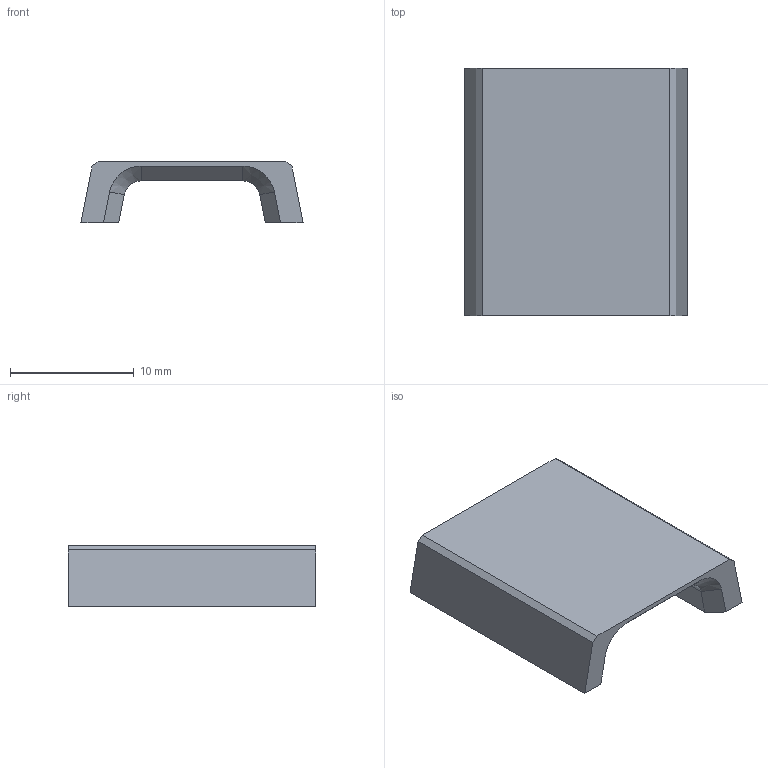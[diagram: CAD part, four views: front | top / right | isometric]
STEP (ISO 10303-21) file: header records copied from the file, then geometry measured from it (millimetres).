
FILE_DESCRIPTION(/* description */ (''),/* implementation_level */ '2;1');
FILE_NAME(/* name */ 'Clamp for cables hex lamp v1.step',/* time_stamp */ '2025-10-01T21:53:16+09:00',/* author */ (''),/* organization */ (''),/* preprocessor_version */ 'ST-DEVELOPER v20.1',/* originating_system */ 'Autodesk Translation Framework v14.17.0.0',/* authorisation */ '');
FILE_SCHEMA (('AUTOMOTIVE_DESIGN { 1 0 10303 214 3 1 1 }'));
Length unit declared in the file: millimetre
Products named in the file (1): Clamp for cables hex lamp
Bounding box: 18 x 20 x 5 mm (x, y, z)
Volume: 919.7 mm3; surface area: 1043.3 mm2
Topology: 1 solids, 1 shells, 24 faces, 58 edges, 36 vertices
Faces by surface type: plane 18, cone 4, cylinder 2
Entity records: 719 total; most frequent: CARTESIAN_POINT 119, ORIENTED_EDGE 116, DIRECTION 116, EDGE_CURVE 58, LINE 50, VECTOR 50, VERTEX_POINT 36, AXIS2_PLACEMENT_3D 33
